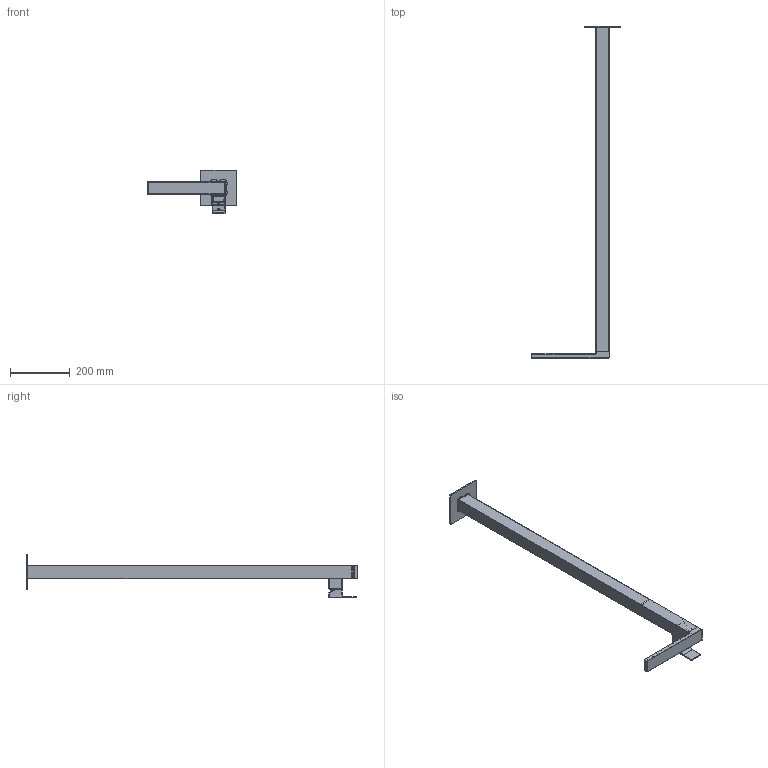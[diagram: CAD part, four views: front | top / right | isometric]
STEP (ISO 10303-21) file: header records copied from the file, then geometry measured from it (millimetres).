
FILE_DESCRIPTION((''),'2;1');
FILE_NAME('35595_SW0001','2026-02-04T10:51:05',('carloff'),(''),'CREO PARAMETRIC BY PTC INC, 2022014','CREO PARAMETRIC BY PTC INC, 2022014','');
FILE_SCHEMA(('CONFIG_CONTROL_DESIGN'));
Products named in the file (1): 35595_SW0001
Bounding box: 297.5 x 1110.3 x 146.7 mm (x, y, z)
Volume: 868652.8 mm3; surface area: 846678.5 mm2
Topology: 3 solids, 4 shells, 1339 faces, 3281 edges, 1955 vertices
Faces by surface type: cylinder 513, plane 363, cone 168, torus 132, bspline 97, sphere 66
Entity records: 49302 total; most frequent: CARTESIAN_POINT 18007, DIRECTION 6754, ORIENTED_EDGE 6526, EDGE_CURVE 3263, AXIS2_PLACEMENT_3D 2688, VERTEX_POINT 1954, CIRCLE 1446, EDGE_LOOP 1411
